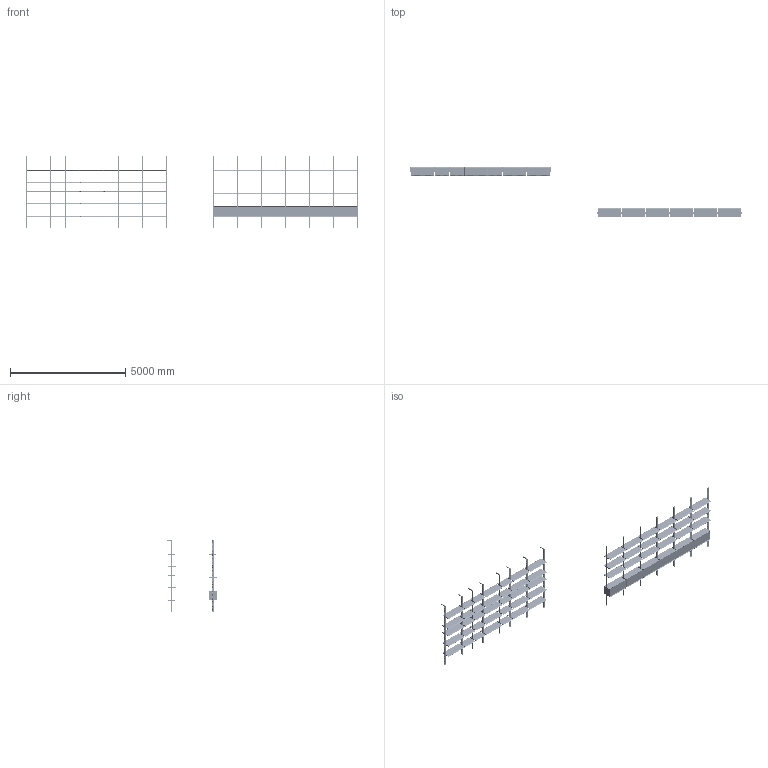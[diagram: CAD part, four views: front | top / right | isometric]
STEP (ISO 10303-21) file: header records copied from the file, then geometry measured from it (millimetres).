
FILE_DESCRIPTION(/* description */ (''),/* implementation_level */ '2;1');
FILE_NAME(/* name */ '3D-REM~1',/* time_stamp */ '2023-07-11T11:06:06+02:00',/* author */ (''),/* organization */ (''),/* preprocessor_version */ 'ST-DEVELOPER v16.5',/* originating_system */ '',/* authorisation */ '');
FILE_SCHEMA (('AUTOMOTIVE_DESIGN'));
Products named in the file (1): Document
Bounding box: 14380.37 x 2204.45 x 3150 mm (x, y, z)
Volume: 394155334.7 mm3; surface area: 96328146.7 mm2
Topology: 639 solids, 639 shells, 10734 faces, 24090 edges, 14768 vertices
Faces by surface type: bspline 6950, plane 3784
Entity records: 346002 total; most frequent: CARTESIAN_POINT 195560, ORIENTED_EDGE 48180, EDGE_CURVE 24090, VERTEX_POINT 14768, EDGE_LOOP 11110, B_SPLINE_CURVE_WITH_KNOTS 10784, ADVANCED_FACE 10734, FACE_OUTER_BOUND 10734
